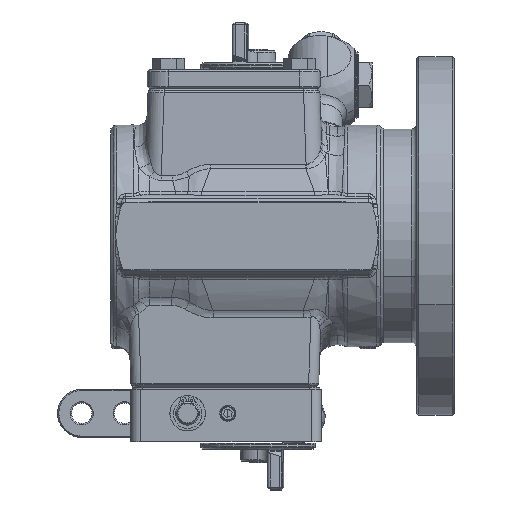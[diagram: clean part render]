
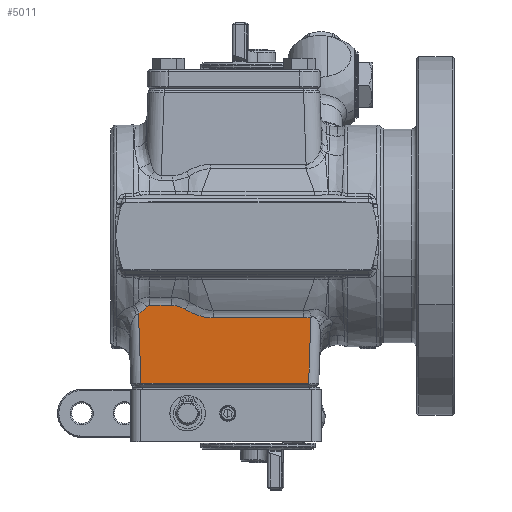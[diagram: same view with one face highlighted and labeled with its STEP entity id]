
A CAD part, left-side view. The second image highlights one B-rep face of the part: STEP entity #5011.
In plain terms, the highlighted planar face has unit normal (-0.999, 0, -0.035).
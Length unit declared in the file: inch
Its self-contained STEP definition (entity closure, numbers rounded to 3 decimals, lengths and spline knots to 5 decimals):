
#300 = DIRECTION ( 'NONE',  ( 0., 1., 0. ) ) ;
#443 = ORIENTED_EDGE ( 'NONE', *, *, #83812, .T. ) ;
#1298 = CARTESIAN_POINT ( 'NONE',  ( -2.07046, 2.71819, -1.73224 ) ) ;
#1812 = LINE ( 'NONE', #22458, #86017 ) ;
#2947 = CARTESIAN_POINT ( 'NONE',  ( -2.06339, 1.59044, -1.93471 ) ) ;
#3467 = EDGE_CURVE ( 'NONE', #15392, #56884, #9367, .T. ) ;
#4715 = CARTESIAN_POINT ( 'NONE',  ( -2.06669, 2.83241, -1.84014 ) ) ;
#5011 = ADVANCED_FACE ( 'NONE', ( #69372 ), #80297, .T. ) ;
#9367 = B_SPLINE_CURVE_WITH_KNOTS ( 'NONE', 3,
 ( #26607, #83685, #34815, #75878, #1298, #75164, #35170, #58457, #91866, #41997 ),
 .UNSPECIFIED., .F., .F.,
 ( 4, 2, 2, 2, 4 ),
 ( 0., 0.00052, 0.00103, 0.00155, 0.00206 ),
 .UNSPECIFIED. ) ;
#11927 = DIRECTION ( 'NONE',  ( 0., -1., 0. ) ) ;
#14169 = DIRECTION ( 'NONE',  ( 0.035, -0.035, -0.999 ) ) ;
#15392 = VERTEX_POINT ( 'NONE', #46684 ) ;
#17052 = ORIENTED_EDGE ( 'NONE', *, *, #42616, .T. ) ;
#17724 = ORIENTED_EDGE ( 'NONE', *, *, #41482, .T. ) ;
#18998 = CARTESIAN_POINT ( 'NONE',  ( -2.0616, 1.44738, -1.98588 ) ) ;
#19160 = VECTOR ( 'NONE', #14169, 39.37008 ) ;
#19194 = CARTESIAN_POINT ( 'NONE',  ( -2.07073, 2.68542, -1.72459 ) ) ;
#19508 = B_SPLINE_CURVE_WITH_KNOTS ( 'NONE', 3,
 ( #74715, #35067, #27202, #83229, #75765, #99946, #18998, #34708, #2947, #68607, #76107, #51858 ),
 .UNSPECIFIED., .F., .F.,
 ( 4, 2, 2, 2, 2, 4 ),
 ( 0., 0.00465, 0.00697, 0.0093, 0.01395, 0.01859 ),
 .UNSPECIFIED. ) ;
#19987 = CARTESIAN_POINT ( 'NONE',  ( -2.07073, 2.15226, -1.72459 ) ) ;
#21890 = CARTESIAN_POINT ( 'NONE',  ( -2.06045, -1.3106, -2.01894 ) ) ;
#22458 = CARTESIAN_POINT ( 'NONE',  ( -2.0003, -1.25046, -3.7413 ) ) ;
#24022 = VERTEX_POINT ( 'NONE', #28225 ) ;
#25970 = EDGE_CURVE ( 'NONE', #56884, #68777, #102296, .T. ) ;
#26607 = CARTESIAN_POINT ( 'NONE',  ( -2.07073, 2.68542, -1.72459 ) ) ;
#27202 = CARTESIAN_POINT ( 'NONE',  ( -2.06001, 1.23832, -2.03153 ) ) ;
#28225 = CARTESIAN_POINT ( 'NONE',  ( -2.05981, 1.11603, -2.03719 ) ) ;
#31541 = CARTESIAN_POINT ( 'NONE',  ( -2.06045, -1.3106, -2.01894 ) ) ;
#33334 = CARTESIAN_POINT ( 'NONE',  ( -2.05981, -1.18146, -2.03719 ) ) ;
#33493 = VERTEX_POINT ( 'NONE', #21890 ) ;
#34708 = CARTESIAN_POINT ( 'NONE',  ( -2.0626, 1.53417, -1.9574 ) ) ;
#34815 = CARTESIAN_POINT ( 'NONE',  ( -2.07069, 2.69898, -1.72561 ) ) ;
#35067 = CARTESIAN_POINT ( 'NONE',  ( -2.05981, 1.17754, -2.03719 ) ) ;
#35170 = CARTESIAN_POINT ( 'NONE',  ( -2.07008, 2.73534, -1.74316 ) ) ;
#35720 = CARTESIAN_POINT ( 'NONE',  ( -2.07073, 2.09122, -1.72459 ) ) ;
#35832 = CARTESIAN_POINT ( 'NONE',  ( -2.06942, 2.75452, -1.76212 ) ) ;
#39635 = DIRECTION ( 'NONE',  ( -0.035, 0., 0.999 ) ) ;
#39802 = CARTESIAN_POINT ( 'NONE',  ( -2.06004, -1.24629, -2.03078 ) ) ;
#40058 = EDGE_CURVE ( 'NONE', #54861, #85148, #73135, .T. ) ;
#41482 = EDGE_CURVE ( 'NONE', #33493, #64192, #96163, .T. ) ;
#41997 = CARTESIAN_POINT ( 'NONE',  ( -2.06942, 2.75452, -1.76212 ) ) ;
#42616 = EDGE_CURVE ( 'NONE', #68777, #54861, #98234, .T. ) ;
#43174 = DIRECTION ( 'NONE',  ( 0., 1., 0. ) ) ;
#44393 = LINE ( 'NONE', #50626, #61005 ) ;
#45847 = CARTESIAN_POINT ( 'NONE',  ( -2.00334, -1.25259, -3.65422 ) ) ;
#46684 = CARTESIAN_POINT ( 'NONE',  ( -2.07073, 2.68542, -1.72459 ) ) ;
#46728 = EDGE_LOOP ( 'NONE', ( #17052, #98655, #74267, #17724, #443, #103655, #65482, #95969, #97308, #59546 ) ) ;
#48540 = DIRECTION ( 'NONE',  ( -0.035, -0.035, 0.999 ) ) ;
#50143 = CARTESIAN_POINT ( 'NONE',  ( -2.05981, -1.11603, -2.03719 ) ) ;
#50207 = EDGE_CURVE ( 'NONE', #94539, #15392, #90924, .T. ) ;
#50626 = CARTESIAN_POINT ( 'NONE',  ( -2.05981, 1.08871, -2.03719 ) ) ;
#51499 = VECTOR ( 'NONE', #43174, 39.37008 ) ;
#51858 = CARTESIAN_POINT ( 'NONE',  ( -2.06729, 1.8066, -1.82303 ) ) ;
#54861 = VERTEX_POINT ( 'NONE', #87981 ) ;
#56472 = EDGE_CURVE ( 'NONE', #68404, #94539, #72456, .T. ) ;
#56884 = VERTEX_POINT ( 'NONE', #35832 ) ;
#58457 = CARTESIAN_POINT ( 'NONE',  ( -2.06977, 2.74546, -1.75207 ) ) ;
#59546 = ORIENTED_EDGE ( 'NONE', *, *, #25970, .T. ) ;
#59832 = CARTESIAN_POINT ( 'NONE',  ( -2.05981, -1.11603, -2.03719 ) ) ;
#61005 = VECTOR ( 'NONE', #300, 39.37008 ) ;
#61540 = CARTESIAN_POINT ( 'NONE',  ( -2.0672, 2.81559, -1.82571 ) ) ;
#61900 = CARTESIAN_POINT ( 'NONE',  ( -2.06456, 2.92262, -1.90129 ) ) ;
#62931 = VECTOR ( 'NONE', #11927, 39.37008 ) ;
#63275 = CARTESIAN_POINT ( 'NONE',  ( -2.07073, 2.15226, -1.72459 ) ) ;
#63572 = CARTESIAN_POINT ( 'NONE',  ( -2., -1.5, -3.75 ) ) ;
#64192 = VERTEX_POINT ( 'NONE', #59832 ) ;
#64341 = CARTESIAN_POINT ( 'NONE',  ( -2.00334, -1.2535, -3.65422 ) ) ;
#65482 = ORIENTED_EDGE ( 'NONE', *, *, #56472, .T. ) ;
#68404 = VERTEX_POINT ( 'NONE', #80414 ) ;
#68607 = CARTESIAN_POINT ( 'NONE',  ( -2.06519, 1.70039, -1.88323 ) ) ;
#68777 = VERTEX_POINT ( 'NONE', #80626 ) ;
#68793 = EDGE_CURVE ( 'NONE', #85148, #33493, #1812, .T. ) ;
#69372 = FACE_OUTER_BOUND ( 'NONE', #46728, .T. ) ;
#71246 = CARTESIAN_POINT ( 'NONE',  ( -1.99465, 2.8948, -3.90328 ) ) ;
#71753 = DIRECTION ( 'NONE',  ( -0.999, 0., -0.035 ) ) ;
#72456 = B_SPLINE_CURVE_WITH_KNOTS ( 'NONE', 3,
 ( #92391, #84562, #92733, #77110, #35720, #19987 ),
 .UNSPECIFIED., .F., .F.,
 ( 4, 2, 4 ),
 ( 0., 0.00461, 0.00922 ),
 .UNSPECIFIED. ) ;
#73135 = LINE ( 'NONE', #45847, #62931 ) ;
#74267 = ORIENTED_EDGE ( 'NONE', *, *, #68793, .T. ) ;
#74715 = CARTESIAN_POINT ( 'NONE',  ( -2.05981, 1.11603, -2.03719 ) ) ;
#75164 = CARTESIAN_POINT ( 'NONE',  ( -2.07022, 2.72985, -1.73908 ) ) ;
#75765 = CARTESIAN_POINT ( 'NONE',  ( -2.06078, 1.35851, -2.00949 ) ) ;
#75878 = CARTESIAN_POINT ( 'NONE',  ( -2.07056, 2.71205, -1.72947 ) ) ;
#76107 = CARTESIAN_POINT ( 'NONE',  ( -2.06619, 1.75405, -1.85444 ) ) ;
#77110 = CARTESIAN_POINT ( 'NONE',  ( -2.07043, 2.03128, -1.73304 ) ) ;
#78267 = CARTESIAN_POINT ( 'NONE',  ( -2.06532, 2.88482, -1.87962 ) ) ;
#78601 = CARTESIAN_POINT ( 'NONE',  ( -2.06826, 2.78378, -1.79515 ) ) ;
#80297 = PLANE ( 'NONE',  #95059 ) ;
#80414 = CARTESIAN_POINT ( 'NONE',  ( -2.06729, 1.8066, -1.82303 ) ) ;
#80626 = CARTESIAN_POINT ( 'NONE',  ( -2.06401, 2.96417, -1.91689 ) ) ;
#83229 = CARTESIAN_POINT ( 'NONE',  ( -2.06056, 1.32857, -2.0159 ) ) ;
#83685 = CARTESIAN_POINT ( 'NONE',  ( -2.07073, 2.69226, -1.72459 ) ) ;
#83812 = EDGE_CURVE ( 'NONE', #64192, #24022, #44393, .T. ) ;
#84562 = CARTESIAN_POINT ( 'NONE',  ( -2.06838, 1.85893, -1.79175 ) ) ;
#85148 = VERTEX_POINT ( 'NONE', #64341 ) ;
#86017 = VECTOR ( 'NONE', #48540, 39.37008 ) ;
#86389 = CARTESIAN_POINT ( 'NONE',  ( -2.06401, 2.96417, -1.91689 ) ) ;
#87981 = CARTESIAN_POINT ( 'NONE',  ( -2.00334, 2.9035, -3.65422 ) ) ;
#90924 = LINE ( 'NONE', #19194, #51499 ) ;
#91783 = CARTESIAN_POINT ( 'NONE',  ( -2.06942, 2.75452, -1.76212 ) ) ;
#91866 = CARTESIAN_POINT ( 'NONE',  ( -2.0696, 2.75014, -1.75693 ) ) ;
#92391 = CARTESIAN_POINT ( 'NONE',  ( -2.06729, 1.8066, -1.82303 ) ) ;
#92733 = CARTESIAN_POINT ( 'NONE',  ( -2.06925, 1.91409, -1.76696 ) ) ;
#94539 = VERTEX_POINT ( 'NONE', #63275 ) ;
#95000 = EDGE_CURVE ( 'NONE', #24022, #68404, #19508, .T. ) ;
#95059 = AXIS2_PLACEMENT_3D ( 'NONE', #63572, #71753, #39635 ) ;
#95969 = ORIENTED_EDGE ( 'NONE', *, *, #50207, .T. ) ;
#96163 = B_SPLINE_CURVE_WITH_KNOTS ( 'NONE', 3,
 ( #31541, #39802, #33334, #50143 ),
 .UNSPECIFIED., .F., .F.,
 ( 4, 4 ),
 ( 0., 0.00496 ),
 .UNSPECIFIED. ) ;
#97308 = ORIENTED_EDGE ( 'NONE', *, *, #3467, .T. ) ;
#98234 = LINE ( 'NONE', #71246, #19160 ) ;
#98655 = ORIENTED_EDGE ( 'NONE', *, *, #40058, .T. ) ;
#99946 = CARTESIAN_POINT ( 'NONE',  ( -2.06131, 1.41806, -1.99444 ) ) ;
#100688 = CARTESIAN_POINT ( 'NONE',  ( -2.06883, 2.76876, -1.77901 ) ) ;
#102296 = B_SPLINE_CURVE_WITH_KNOTS ( 'NONE', 3,
 ( #91783, #100688, #78601, #61540, #4715, #78267, #61900, #86389 ),
 .UNSPECIFIED., .F., .F.,
 ( 4, 2, 2, 4 ),
 ( 0., 0.00168, 0.00336, 0.00672 ),
 .UNSPECIFIED. ) ;
#103655 = ORIENTED_EDGE ( 'NONE', *, *, #95000, .T. ) ;
